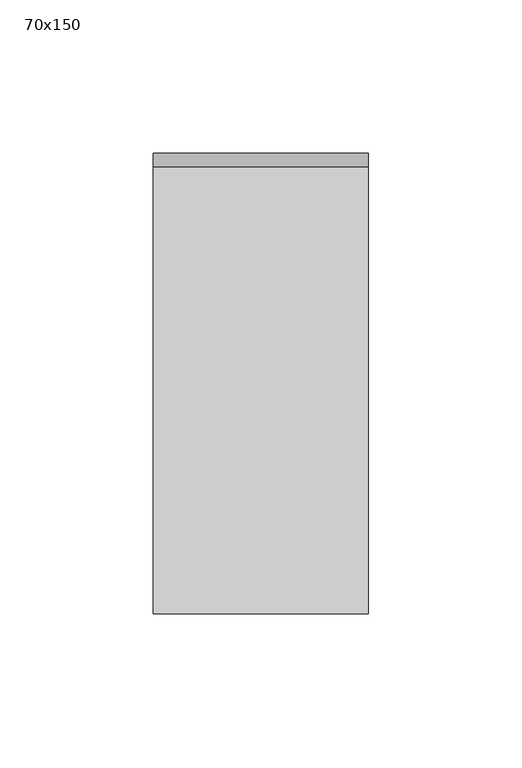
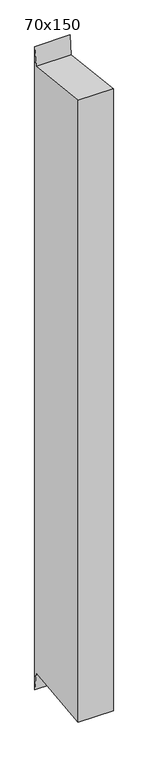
"""IFC4 building model written with IfcOpenShell, lengths in millimetres: member geometry, 長方形のマリオン : 70x150."""

from ifc_helpers import new_model, si_unit, frame, origin, place, context, project, spatial, polyline, outline, extrude, source, transform, mapped, element, save


def member_70x150_a785b71b(model_context):
    return source(origin(), model_context, "Body", "SweptSolid", [
        extrude(outline(polyline([(-75.0, 8.1977368), (70.6284068, -8.1465891), (75.0, 30.80443), (75.0, -1323.6902019), (70.6284068, -1284.7391828), (-75.0, -1301.0835087), (-75.0, 8.1977368)])), frame((-70.0, 0.0, 0.0), z_axis=(1.0, 0.0, 0.0), x_axis=(0.0, 1.0, 0.0)), (0.0, 0.0, 1.0), 70.0),
    ])


if __name__ == "__main__":
    model = new_model("IFC4")
    model_context = context("Model", 3, world=origin())
    ifc_project = project(units=[si_unit("LENGTHUNIT", "METRE", prefix="MILLI")], contexts=[model_context])
    site = spatial("IfcSite", under=ifc_project)
    building = spatial("IfcBuilding", under=site)
    placement = place(None, origin())
    member_70x150_shape = member_70x150_a785b71b(model_context)
    element("IfcMember", 1, ObjectType="長方形のマリオン : 70x150", at=placement, inside=building, context=model_context, shape_type="MappedRepresentation", body=[
        mapped(member_70x150_shape, transform((0.0, 0.0, 0.0), x_axis=(1.0, 0.0, 0.0), y_axis=(0.0, 1.0, 0.0), z_axis=(0.0, 0.0, 1.0))),
    ])
    save(model, "model.ifc")
